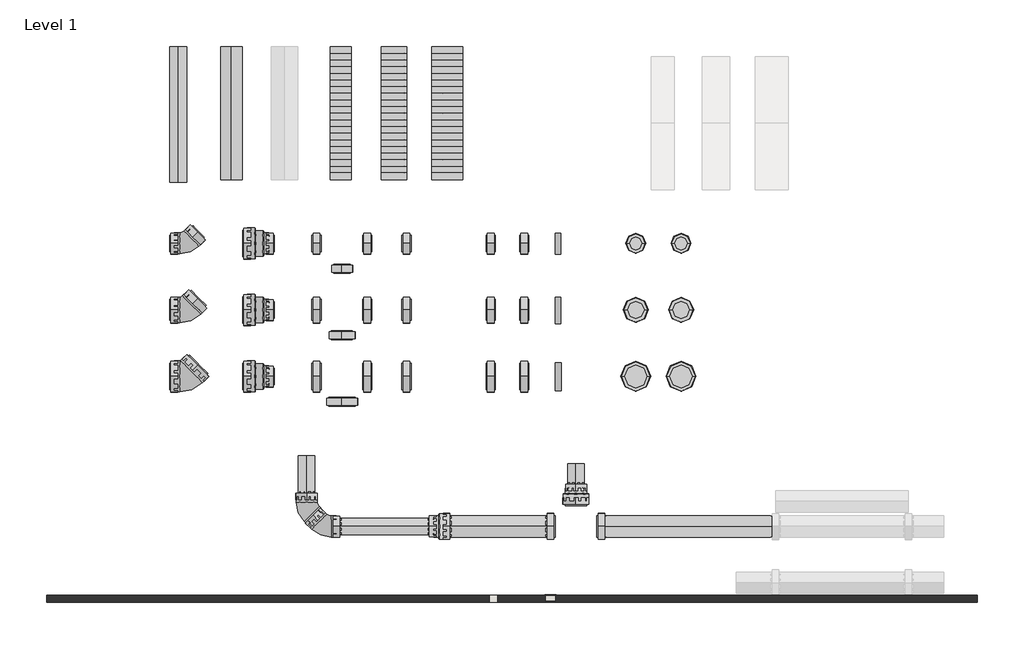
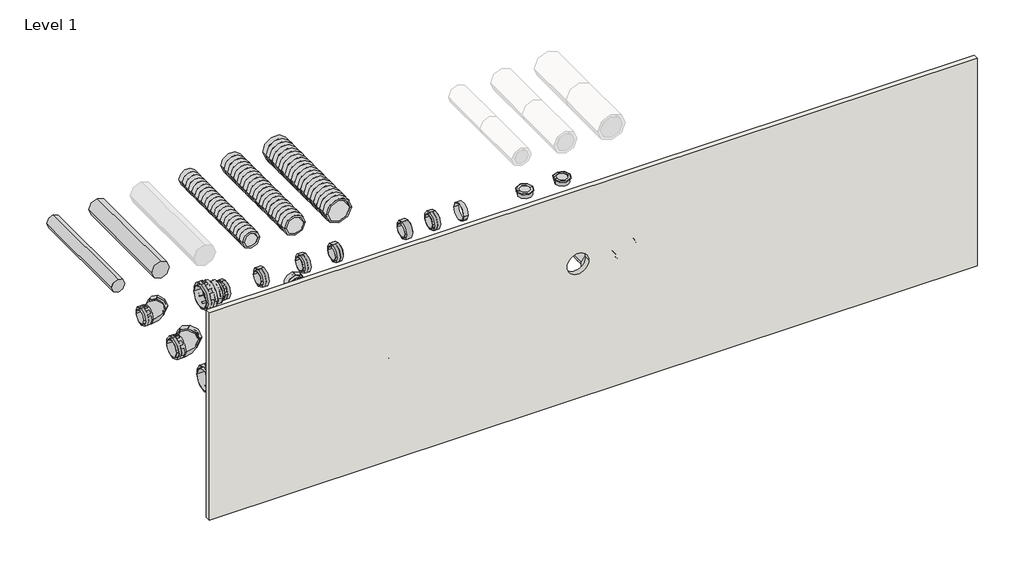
# One storey, part 1 of 2: 62 duct fittings, 7 duct segments, 1 wall.
"""IFC4 building model written with IfcOpenShell, lengths in millimetres."""

from ifc_helpers import new_model, si_unit, point, frame, frame_2d, origin, place, context, project, spatial, polyline, circle_curve, trimmed, segment, composite_curve, outline, extrude, transform, mapped, element, save
from ifc_brep_helpers import plane_surface, revolved_surface, advanced_brep
from components import duct_fitting_1b19f706, duct_fitting_def6fac4, duct_fitting_39894b4e, duct_fitting_a0ea5269, duct_fitting_e1a536a2, duct_fitting_b6d4955a, duct_fitting_a8d4e932, duct_fitting_c02a2270, duct_fitting_72554cf0, duct_fitting_98ac1955, duct_fitting_890f7c86, duct_fitting_05c502d2, duct_fitting_17f027be, duct_fitting_16796d55, duct_fitting_125_81f458a2, duct_fitting_160_bce058bc, duct_fitting_200_79083b61

model = new_model("IFC4")

# Units and contexts
model_context = context("Model", 3, world=origin())
ifc_project = project(units=[si_unit("LENGTHUNIT", "METRE", prefix="MILLI")], contexts=[model_context])

# Site, building, storey
site = spatial("IfcSite", under=ifc_project)
building = spatial("IfcBuilding", under=site)
storey = spatial("IfcBuildingStorey", under=building, Name="Level 1", Elevation=0.0)

# Duct fittings
placement = place(None, origin())
duct_fitting_shape = duct_fitting_1b19f706(model_context)
element("IfcDuctFitting", 1, ObjectType="HEATPEX - ARIA ADURO - Łącznik z uszczelką : HEATPEX - ARIA ADURO - Łącznik z uszczelką", at=placement, inside=storey, context=model_context, shape_type="MappedRepresentation", body=[
    mapped(duct_fitting_shape, transform((-2295.4264715, 3207.3868692, 0.0), x_axis=(1.0, 0.0, 0.0), y_axis=(0.0, 1.0, 0.0), z_axis=(0.0, 0.0, 1.0))),
])
element("IfcDuctFitting", 2, ObjectType="HEATPEX - ARIA ADURO - Łącznik z uszczelką : HEATPEX - ARIA ADURO - Łącznik z uszczelką", at=placement, inside=storey, context=model_context, shape_type="MappedRepresentation", body=[
    mapped(duct_fitting_shape, transform((-1662.2842854, 3207.3868692, 0.0), x_axis=(1.0, 0.0, 0.0), y_axis=(0.0, 1.0, 0.0), z_axis=(0.0, 0.0, 1.0))),
])
element("IfcDuctFitting", 3, ObjectType="HEATPEX - ARIA ADURO - Łącznik z uszczelką : HEATPEX - ARIA ADURO - Łącznik z uszczelką", at=placement, inside=storey, context=model_context, shape_type="MappedRepresentation", body=[
    mapped(duct_fitting_shape, transform((-1410.2842854, 3207.3868692, 0.0), x_axis=(1.0, 0.0, 0.0), y_axis=(0.0, 1.0, 0.0), z_axis=(0.0, 0.0, 1.0))),
])
element("IfcDuctFitting", 4, ObjectType="HEATPEX - ARIA ADURO - Łącznik z uszczelką : HEATPEX - ARIA ADURO - Łącznik z uszczelką", at=placement, inside=storey, context=model_context, shape_type="MappedRepresentation", body=[
    mapped(duct_fitting_shape, transform((-4042.4390569, 3207.3868692, 0.0), x_axis=(1.0, 0.0, 0.0), y_axis=(0.0, 1.0, 0.0), z_axis=(0.0, 0.0, 1.0))),
])
element("IfcDuctFitting", 5, ObjectType="HEATPEX - ARIA ADURO - Łącznik z uszczelką : HEATPEX - ARIA ADURO - Łącznik z uszczelką", at=placement, inside=storey, context=model_context, shape_type="MappedRepresentation", body=[
    mapped(duct_fitting_shape, transform((-3883.6781262, 3273.1477999, 0.0), x_axis=(0.7071067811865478, 0.7071067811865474, 0.0), y_axis=(-0.7071067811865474, 0.7071067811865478, 0.0), z_axis=(0.0, 0.0, 1.0))),
])
element("IfcDuctFitting", 6, ObjectType="HEATPEX - ARIA ADURO - Łącznik z uszczelką : HEATPEX - ARIA ADURO - Łącznik z uszczelką", at=placement, inside=storey, context=model_context, shape_type="MappedRepresentation", body=[
    mapped(duct_fitting_shape, transform((-2980.4039592, 1144.4602039, 557.2), x_axis=(0.7071067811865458, -0.7071067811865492, 0.0), y_axis=(0.70710677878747, 0.7071067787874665, -8.237487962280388e-05), z_axis=(5.824783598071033e-05, 5.824783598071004e-05, 0.9999999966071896))),
])
element("IfcDuctFitting", 7, ObjectType="HEATPEX - ARIA ADURO - Łącznik z uszczelką : HEATPEX - ARIA ADURO - Łącznik z uszczelką", at=placement, inside=storey, context=model_context, shape_type="MappedRepresentation", body=[
    mapped(duct_fitting_shape, transform((-2821.6430287, 1078.6992731, 557.194583), x_axis=(0.9999999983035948, -1.696408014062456e-09, -5.8247835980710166e-05), y_axis=(-1.6964024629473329e-09, 0.9999999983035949, -5.82478359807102e-05), z_axis=(5.824783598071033e-05, 5.824783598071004e-05, 0.9999999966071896))),
])
element("IfcDuctFitting", 8, ObjectType="HEATPEX - ARIA ADURO - Łącznik z uszczelką : HEATPEX - ARIA ADURO - Łącznik z uszczelką", at=placement, inside=storey, context=model_context, shape_type="MappedRepresentation", body=[
    mapped(duct_fitting_shape, transform((-3046.16489, 1303.2211344, 557.194583), x_axis=(1.6964035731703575e-09, -0.9999999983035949, 5.824783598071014e-05), y_axis=(0.999999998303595, -1.6964068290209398e-09, -5.8247835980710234e-05), z_axis=(5.824783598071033e-05, 5.8247835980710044e-05, 0.9999999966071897))),
])
element("IfcDuctFitting", 9, ObjectType="HEATPEX - ARIA ADURO - Łącznik z uszczelką : HEATPEX - ARIA ADURO - Łącznik z uszczelką", at=placement, inside=storey, context=model_context, shape_type="MappedRepresentation", body=[
    mapped(duct_fitting_shape, transform((-2590.228815, 3207.3868692, 0.0), x_axis=(1.0, 0.0, 0.0), y_axis=(0.0, 1.0, 0.0), z_axis=(0.0, 0.0, 1.0))),
])
element("IfcDuctFitting", 10, ObjectType="HEATPEX - ARIA ADURO - Łącznik z uszczelką : HEATPEX - ARIA ADURO - Łącznik z uszczelką", at=placement, inside=storey, context=model_context, shape_type="MappedRepresentation", body=[
    mapped(duct_fitting_shape, transform((-2972.228815, 3207.3868692, 0.0), x_axis=(1.0, 0.0, 0.0), y_axis=(0.0, 1.0, 0.0), z_axis=(0.0, 0.0, 1.0))),
])
element("IfcDuctFitting", 11, ObjectType="HEATPEX - ARIA ADURO - Łącznik z uszczelką : HEATPEX - ARIA ADURO - Łącznik z uszczelką", at=placement, inside=storey, context=model_context, shape_type="MappedRepresentation", body=[
    mapped(duct_fitting_shape, transform((-2781.228815, 3016.3868692, 0.0), x_axis=(0.0, 1.0, 0.0), y_axis=(-1.0, 0.0, 0.0), z_axis=(0.0, 0.0, 1.0))),
])
element("IfcDuctFitting", 12, ObjectType="HEATPEX - ARIA ADURO - Łącznik z uszczelką : HEATPEX - ARIA ADURO - Łącznik z uszczelką", at=placement, inside=storey, context=model_context, shape_type="MappedRepresentation", body=[
    mapped(duct_fitting_shape, transform((-3324.2481419, 2207.3868692, 0.0), x_axis=(1.0, 0.0, 0.0), y_axis=(0.0, 1.0, 0.0), z_axis=(0.0, 0.0, 1.0))),
])
element("IfcDuctFitting", 13, ObjectType="HEATPEX - ARIA ADURO - Łącznik z uszczelką : HEATPEX - ARIA ADURO - Łącznik z uszczelką", at=placement, inside=storey, context=model_context, shape_type="MappedRepresentation", body=[
    mapped(duct_fitting_shape, transform((-3324.2481419, 2707.3868692, 0.0), x_axis=(1.0, 0.0, 0.0), y_axis=(0.0, 1.0, 0.0), z_axis=(0.0, 0.0, 1.0))),
])
element("IfcDuctFitting", 14, ObjectType="HEATPEX - ARIA ADURO - Łącznik z uszczelką : HEATPEX - ARIA ADURO - Łącznik z uszczelką", at=placement, inside=storey, context=model_context, shape_type="MappedRepresentation", body=[
    mapped(duct_fitting_shape, transform((-3324.2481419, 3207.3868692, 0.0), x_axis=(1.0, 0.0, 0.0), y_axis=(0.0, 1.0, 0.0), z_axis=(0.0, 0.0, 1.0))),
])
element("IfcDuctFitting", 15, ObjectType="HEATPEX - ARIA ADURO - Łącznik z uszczelką : HEATPEX - ARIA ADURO - Łącznik z uszczelką", at=placement, inside=storey, context=model_context, shape_type="MappedRepresentation", body=[
    mapped(duct_fitting_shape, transform((-1021.228815, 1372.6992731, 557.1945247), x_axis=(0.0, 1.0, 0.0), y_axis=(-1.0, 0.0, 0.0), z_axis=(0.0, 0.0, 1.0))),
])
element("IfcDuctFitting", 16, ObjectType="HEATPEX - ARIA ADURO - Łącznik z uszczelką : HEATPEX - ARIA ADURO - Łącznik z uszczelką", at=placement, inside=storey, context=model_context, shape_type="MappedRepresentation", body=[
    mapped(duct_fitting_shape, transform((-2097.728815, 1078.6992731, 557.1945247), x_axis=(-1.0, 0.0, 0.0), y_axis=(0.0, -1.0, 0.0), z_axis=(0.0, 0.0, 1.0))),
])
duct_fitting_2_shape = duct_fitting_def6fac4(model_context)
element("IfcDuctFitting", 17, ObjectType="HEATPEX - ARIA ADURO - Kolano 45 : HEATPEX - ARIA ADURO - Kolano 45", at=placement, inside=storey, context=model_context, shape_type="MappedRepresentation", body=[
    mapped(duct_fitting_2_shape, transform((-3949.4390569, 2207.3868692, 0.0), x_axis=(1.0, 0.0, 0.0), y_axis=(0.0, 1.0, 0.0), z_axis=(0.0, 0.0, 1.0))),
])
duct_fitting_3_shape = duct_fitting_39894b4e(model_context)
element("IfcDuctFitting", 18, ObjectType="HEATPEX - ARIA ADURO - Redukcja : HEATPEX - ARIA ADURO - Redukcja", at=placement, inside=storey, context=model_context, shape_type="MappedRepresentation", body=[
    mapped(duct_fitting_3_shape, transform((-3408.7481419, 2207.3868692, 0.0), x_axis=(1.0, 0.0, 0.0), y_axis=(0.0, 1.0, 0.0), z_axis=(0.0, 0.0, 1.0))),
])
element("IfcDuctFitting", 19, ObjectType="HEATPEX - ARIA ADURO - Redukcja : HEATPEX - ARIA ADURO - Redukcja", at=placement, inside=storey, context=model_context, shape_type="MappedRepresentation", body=[
    mapped(duct_fitting_3_shape, transform((-3408.7481419, 2707.3868692, 0.0), x_axis=(1.0, 0.0, 0.0), y_axis=(0.0, 1.0, 0.0), z_axis=(0.0, 0.0, 1.0))),
])
element("IfcDuctFitting", 20, ObjectType="HEATPEX - ARIA ADURO - Redukcja : HEATPEX - ARIA ADURO - Redukcja", at=placement, inside=storey, context=model_context, shape_type="MappedRepresentation", body=[
    mapped(duct_fitting_3_shape, transform((-3408.7481419, 3207.3868692, 0.0), x_axis=(1.0, 0.0, 0.0), y_axis=(0.0, 1.0, 0.0), z_axis=(0.0, 0.0, 1.0))),
])
duct_fitting_4_shape = duct_fitting_a0ea5269(model_context)
element("IfcDuctFitting", 21, ObjectType="HEATPEX - ARIA ADURO - Rura 1m : HEATPEX - ARIA ADURO - Rura 1m", at=placement, inside=storey, context=model_context, shape_type="MappedRepresentation", body=[
    mapped(duct_fitting_4_shape, transform((-2788.7435132, 3687.7548725, 0.0), x_axis=(0.0, 1.0, 0.0), y_axis=(-1.0, 0.0, 0.0), z_axis=(0.0, 0.0, 1.0))),
])
duct_fitting_5_shape = duct_fitting_e1a536a2(model_context)
element("IfcDuctFitting", 22, ObjectType="HEATPEX - ARIA ADURO - Rura 1m : HEATPEX - ARIA ADURO - Rura 1m", at=placement, inside=storey, context=model_context, shape_type="MappedRepresentation", body=[
    mapped(duct_fitting_5_shape, transform((-2388.7435132, 3687.7548725, 0.0), x_axis=(0.0, 1.0, 0.0), y_axis=(-1.0, 0.0, 0.0), z_axis=(0.0, 0.0, 1.0))),
])
duct_fitting_6_shape = duct_fitting_b6d4955a(model_context)
element("IfcDuctFitting", 23, ObjectType="HEATPEX - ARIA ADURO - Rura 1m : HEATPEX - ARIA ADURO - Rura 1m", at=placement, inside=storey, context=model_context, shape_type="MappedRepresentation", body=[
    mapped(duct_fitting_6_shape, transform((-1988.7435132, 3687.7548725, 0.0), x_axis=(0.0, 1.0, 0.0), y_axis=(-1.0, 0.0, 0.0), z_axis=(0.0, 0.0, 1.0))),
])
duct_fitting_7_shape = duct_fitting_a8d4e932(model_context)
element("IfcDuctFitting", 24, ObjectType="HEATPEX - ARIA ADURO - Kolano 45 : HEATPEX - ARIA ADURO - Kolano 45", at=placement, inside=storey, context=model_context, shape_type="MappedRepresentation", body=[
    mapped(duct_fitting_7_shape, transform((-3949.4390569, 3207.3868692, 0.0), x_axis=(1.0, 0.0, 0.0), y_axis=(0.0, 1.0, 0.0), z_axis=(0.0, 0.0, 1.0))),
])
element("IfcDuctFitting", 25, ObjectType="HEATPEX - ARIA ADURO - Kolano 45 : HEATPEX - ARIA ADURO - Kolano 45", at=placement, inside=storey, context=model_context, shape_type="MappedRepresentation", body=[
    mapped(duct_fitting_7_shape, transform((-2914.6430286, 1078.6992733, 557.2), x_axis=(0.7071067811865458, -0.7071067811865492, 0.0), y_axis=(0.70710677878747, 0.7071067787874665, -8.237487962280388e-05), z_axis=(5.824783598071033e-05, 5.824783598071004e-05, 0.9999999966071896))),
])
duct_fitting_8_shape = duct_fitting_c02a2270(model_context)
element("IfcDuctFitting", 26, ObjectType="HEATPEX - ARIA ADURO - Kolano 45 : HEATPEX - ARIA ADURO - Kolano 45", at=placement, inside=storey, context=model_context, shape_type="MappedRepresentation", body=[
    mapped(duct_fitting_8_shape, transform((-3949.4390569, 2707.3868692, 0.0), x_axis=(1.0, 0.0, 0.0), y_axis=(0.0, 1.0, 0.0), z_axis=(0.0, 0.0, 1.0))),
])
element("IfcDuctFitting", 27, ObjectType="HEATPEX - ARIA ADURO - Kolano 45 : HEATPEX - ARIA ADURO - Kolano 45", at=placement, inside=storey, context=model_context, shape_type="MappedRepresentation", body=[
    mapped(duct_fitting_7_shape, transform((-3046.1648899, 1210.2211346, 557.2), x_axis=(1.6964035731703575e-09, -0.9999999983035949, 5.824783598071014e-05), y_axis=(0.999999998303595, -1.6964068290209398e-09, -5.8247835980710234e-05), z_axis=(5.824783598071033e-05, 5.8247835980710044e-05, 0.9999999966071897))),
])
duct_fitting_9_shape = duct_fitting_72554cf0(model_context)
element("IfcDuctFitting", 28, ObjectType="HEATPEX - ARIA ADURO - Redukcja : HEATPEX - ARIA ADURO - Redukcja", at=placement, inside=storey, context=model_context, shape_type="MappedRepresentation", body=[
    mapped(duct_fitting_9_shape, transform((-1021.228815, 1288.1992731, 557.1945247), x_axis=(0.0, 1.0, 0.0), y_axis=(-1.0, 0.0, 0.0), z_axis=(0.0, 0.0, 1.0))),
])
element("IfcDuctFitting", 29, ObjectType="HEATPEX - ARIA ADURO - Redukcja : HEATPEX - ARIA ADURO - Redukcja", at=placement, inside=storey, context=model_context, shape_type="MappedRepresentation", body=[
    mapped(duct_fitting_9_shape, transform((-2013.228815, 1078.6992731, 557.1945247), x_axis=(-1.0, 0.0, 0.0), y_axis=(0.0, -1.0, 0.0), z_axis=(0.0, 0.0, 1.0))),
])
duct_fitting_10_shape = duct_fitting_98ac1955(model_context)
element("IfcDuctFitting", 30, ObjectType="HEATPEX - ARIA ADURO - Adapter króćca do rekuperatora : 150/160", at=placement, inside=storey, context=model_context, shape_type="MappedRepresentation", body=[
    mapped(duct_fitting_10_shape, transform((-1155.2472103, 3204.2062759, 0.0), x_axis=(1.0, 0.0, 0.0), y_axis=(0.0, 1.0, 0.0), z_axis=(0.0, 0.0, 1.0))),
])
duct_fitting_11_shape = duct_fitting_890f7c86(model_context)
element("IfcDuctFitting", 31, ObjectType="HEATPEX - ARIA ADURO - Adapter króćca do rekuperatora : 180/200", at=placement, inside=storey, context=model_context, shape_type="MappedRepresentation", body=[
    mapped(duct_fitting_11_shape, transform((-1155.2472103, 2704.2062759, 0.0), x_axis=(1.0, 0.0, 0.0), y_axis=(0.0, 1.0, 0.0), z_axis=(0.0, 0.0, 1.0))),
])
duct_fitting_12_shape = duct_fitting_05c502d2(model_context)
element("IfcDuctFitting", 32, ObjectType="HEATPEX - ARIA ADURO - Łącznik z uszczelką : HEATPEX - ARIA ADURO - Łącznik z uszczelką", at=placement, inside=storey, context=model_context, shape_type="MappedRepresentation", body=[
    mapped(duct_fitting_12_shape, transform((-2295.4264715, 2707.3868692, 0.0), x_axis=(1.0, 0.0, 0.0), y_axis=(0.0, 1.0, 0.0), z_axis=(0.0, 0.0, 1.0))),
])
element("IfcDuctFitting", 33, ObjectType="HEATPEX - ARIA ADURO - Łącznik z uszczelką : HEATPEX - ARIA ADURO - Łącznik z uszczelką", at=placement, inside=storey, context=model_context, shape_type="MappedRepresentation", body=[
    mapped(duct_fitting_12_shape, transform((-1662.2842854, 2707.3868692, 0.0), x_axis=(1.0, 0.0, 0.0), y_axis=(0.0, 1.0, 0.0), z_axis=(0.0, 0.0, 1.0))),
])
element("IfcDuctFitting", 34, ObjectType="HEATPEX - ARIA ADURO - Łącznik z uszczelką : HEATPEX - ARIA ADURO - Łącznik z uszczelką", at=placement, inside=storey, context=model_context, shape_type="MappedRepresentation", body=[
    mapped(duct_fitting_12_shape, transform((-1410.2842854, 2707.3868692, 0.0), x_axis=(1.0, 0.0, 0.0), y_axis=(0.0, 1.0, 0.0), z_axis=(0.0, 0.0, 1.0))),
])
element("IfcDuctFitting", 35, ObjectType="HEATPEX - ARIA ADURO - Łącznik z uszczelką : HEATPEX - ARIA ADURO - Łącznik z uszczelką", at=placement, inside=storey, context=model_context, shape_type="MappedRepresentation", body=[
    mapped(duct_fitting_12_shape, transform((-4042.4390569, 2707.3868692, 0.0), x_axis=(1.0, 0.0, 0.0), y_axis=(0.0, 1.0, 0.0), z_axis=(0.0, 0.0, 1.0))),
])
element("IfcDuctFitting", 36, ObjectType="HEATPEX - ARIA ADURO - Łącznik z uszczelką : HEATPEX - ARIA ADURO - Łącznik z uszczelką", at=placement, inside=storey, context=model_context, shape_type="MappedRepresentation", body=[
    mapped(duct_fitting_12_shape, transform((-3883.6781262, 2773.1477999, 0.0), x_axis=(0.7071067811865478, 0.7071067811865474, 0.0), y_axis=(-0.7071067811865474, 0.7071067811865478, 0.0), z_axis=(0.0, 0.0, 1.0))),
])
element("IfcDuctFitting", 37, ObjectType="HEATPEX - ARIA ADURO - Łącznik z uszczelką : HEATPEX - ARIA ADURO - Łącznik z uszczelką", at=placement, inside=storey, context=model_context, shape_type="MappedRepresentation", body=[
    mapped(duct_fitting_12_shape, transform((-2590.228815, 2707.3868692, 0.0), x_axis=(1.0, 0.0, 0.0), y_axis=(0.0, 1.0, 0.0), z_axis=(0.0, 0.0, 1.0))),
])
element("IfcDuctFitting", 38, ObjectType="HEATPEX - ARIA ADURO - Łącznik z uszczelką : HEATPEX - ARIA ADURO - Łącznik z uszczelką", at=placement, inside=storey, context=model_context, shape_type="MappedRepresentation", body=[
    mapped(duct_fitting_12_shape, transform((-2972.228815, 2707.3868692, 0.0), x_axis=(1.0, 0.0, 0.0), y_axis=(0.0, 1.0, 0.0), z_axis=(0.0, 0.0, 1.0))),
])
element("IfcDuctFitting", 39, ObjectType="HEATPEX - ARIA ADURO - Łącznik z uszczelką : HEATPEX - ARIA ADURO - Łącznik z uszczelką", at=placement, inside=storey, context=model_context, shape_type="MappedRepresentation", body=[
    mapped(duct_fitting_12_shape, transform((-2781.228815, 2516.3868692, 0.0), x_axis=(0.0, 1.0, 0.0), y_axis=(-1.0, 0.0, 0.0), z_axis=(0.0, 0.0, 1.0))),
])
element("IfcDuctFitting", 40, ObjectType="HEATPEX - ARIA ADURO - Łącznik z uszczelką : HEATPEX - ARIA ADURO - Łącznik z uszczelką", at=placement, inside=storey, context=model_context, shape_type="MappedRepresentation", body=[
    mapped(duct_fitting_12_shape, transform((-1212.228815, 1078.6992731, 557.1945247), x_axis=(-1.0, 0.0, 0.0), y_axis=(0.0, -1.0, 0.0), z_axis=(0.0, 0.0, 1.0))),
])
element("IfcDuctFitting", 41, ObjectType="HEATPEX - ARIA ADURO - Łącznik z uszczelką : HEATPEX - ARIA ADURO - Łącznik z uszczelką", at=placement, inside=storey, context=model_context, shape_type="MappedRepresentation", body=[
    mapped(duct_fitting_12_shape, transform((-830.228815, 1078.6992731, 557.1945247), x_axis=(-1.0, 0.0, 0.0), y_axis=(0.0, -1.0, 0.0), z_axis=(0.0, 0.0, 1.0))),
])
element("IfcDuctFitting", 42, ObjectType="HEATPEX - ARIA ADURO - Łącznik z uszczelką : HEATPEX - ARIA ADURO - Łącznik z uszczelką", at=placement, inside=storey, context=model_context, shape_type="MappedRepresentation", body=[
    mapped(duct_fitting_12_shape, transform((-1021.228815, 1269.6992731, 557.1945247), x_axis=(0.0, -1.0, 0.0), y_axis=(1.0, 0.0, 0.0), z_axis=(0.0, 0.0, 1.0))),
])
element("IfcDuctFitting", 43, ObjectType="HEATPEX - ARIA ADURO - Łącznik z uszczelką : HEATPEX - ARIA ADURO - Łącznik z uszczelką", at=placement, inside=storey, context=model_context, shape_type="MappedRepresentation", body=[
    mapped(duct_fitting_12_shape, transform((-1994.728815, 1078.6992731, 557.1945247), x_axis=(-1.0, 0.0, 0.0), y_axis=(0.0, -1.0, 0.0), z_axis=(0.0, 0.0, 1.0))),
])
duct_fitting_13_shape = duct_fitting_17f027be(model_context)
element("IfcDuctFitting", 44, ObjectType="HEATPEX - ARIA ADURO - Łącznik z uszczelką : HEATPEX - ARIA ADURO - Łącznik z uszczelką", at=placement, inside=storey, context=model_context, shape_type="MappedRepresentation", body=[
    mapped(duct_fitting_13_shape, transform((-2295.4264715, 2207.3868692, 0.0), x_axis=(1.0, 0.0, 0.0), y_axis=(0.0, 1.0, 0.0), z_axis=(0.0, 0.0, 1.0))),
])
element("IfcDuctFitting", 45, ObjectType="HEATPEX - ARIA ADURO - Łącznik z uszczelką : HEATPEX - ARIA ADURO - Łącznik z uszczelką", at=placement, inside=storey, context=model_context, shape_type="MappedRepresentation", body=[
    mapped(duct_fitting_13_shape, transform((-1662.2842854, 2207.3868692, 0.0), x_axis=(1.0, 0.0, 0.0), y_axis=(0.0, 1.0, 0.0), z_axis=(0.0, 0.0, 1.0))),
])
element("IfcDuctFitting", 46, ObjectType="HEATPEX - ARIA ADURO - Łącznik z uszczelką : HEATPEX - ARIA ADURO - Łącznik z uszczelką", at=placement, inside=storey, context=model_context, shape_type="MappedRepresentation", body=[
    mapped(duct_fitting_13_shape, transform((-1410.2842854, 2207.3868692, 0.0), x_axis=(1.0, 0.0, 0.0), y_axis=(0.0, 1.0, 0.0), z_axis=(0.0, 0.0, 1.0))),
])
element("IfcDuctFitting", 47, ObjectType="HEATPEX - ARIA ADURO - Łącznik z uszczelką : HEATPEX - ARIA ADURO - Łącznik z uszczelką", at=placement, inside=storey, context=model_context, shape_type="MappedRepresentation", body=[
    mapped(duct_fitting_13_shape, transform((-4042.4390569, 2207.3868692, 0.0), x_axis=(1.0, 0.0, 0.0), y_axis=(0.0, 1.0, 0.0), z_axis=(0.0, 0.0, 1.0))),
])
element("IfcDuctFitting", 48, ObjectType="HEATPEX - ARIA ADURO - Łącznik z uszczelką : HEATPEX - ARIA ADURO - Łącznik z uszczelką", at=placement, inside=storey, context=model_context, shape_type="MappedRepresentation", body=[
    mapped(duct_fitting_13_shape, transform((-3883.6781262, 2273.1477999, 0.0), x_axis=(0.7071067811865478, 0.7071067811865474, 0.0), y_axis=(-0.7071067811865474, 0.7071067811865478, 0.0), z_axis=(0.0, 0.0, 1.0))),
])
element("IfcDuctFitting", 49, ObjectType="HEATPEX - ARIA ADURO - Łącznik z uszczelką : HEATPEX - ARIA ADURO - Łącznik z uszczelką", at=placement, inside=storey, context=model_context, shape_type="MappedRepresentation", body=[
    mapped(duct_fitting_13_shape, transform((-2590.228815, 2207.3868692, 0.0), x_axis=(1.0, 0.0, 0.0), y_axis=(0.0, 1.0, 0.0), z_axis=(0.0, 0.0, 1.0))),
])
element("IfcDuctFitting", 50, ObjectType="HEATPEX - ARIA ADURO - Łącznik z uszczelką : HEATPEX - ARIA ADURO - Łącznik z uszczelką", at=placement, inside=storey, context=model_context, shape_type="MappedRepresentation", body=[
    mapped(duct_fitting_13_shape, transform((-2972.228815, 2207.3868692, 0.0), x_axis=(1.0, 0.0, 0.0), y_axis=(0.0, 1.0, 0.0), z_axis=(0.0, 0.0, 1.0))),
])
element("IfcDuctFitting", 51, ObjectType="HEATPEX - ARIA ADURO - Łącznik z uszczelką : HEATPEX - ARIA ADURO - Łącznik z uszczelką", at=placement, inside=storey, context=model_context, shape_type="MappedRepresentation", body=[
    mapped(duct_fitting_13_shape, transform((-2781.228815, 2016.3868692, 0.0), x_axis=(0.0, 1.0, 0.0), y_axis=(-1.0, 0.0, 0.0), z_axis=(0.0, 0.0, 1.0))),
])
element("IfcDuctFitting", 52, ObjectType="HEATPEX - ARIA ADURO - Łącznik z uszczelką : HEATPEX - ARIA ADURO - Łącznik z uszczelką", at=placement, inside=storey, context=model_context, shape_type="MappedRepresentation", body=[
    mapped(duct_fitting_13_shape, transform((-3493.2481419, 2207.3868692, 0.0), x_axis=(1.0, 0.0, 0.0), y_axis=(0.0, 1.0, 0.0), z_axis=(0.0, 0.0, 1.0))),
])
element("IfcDuctFitting", 53, ObjectType="HEATPEX - ARIA ADURO - Łącznik z uszczelką : HEATPEX - ARIA ADURO - Łącznik z uszczelką", at=placement, inside=storey, context=model_context, shape_type="MappedRepresentation", body=[
    mapped(duct_fitting_13_shape, transform((-3493.2481419, 2707.3868692, 0.0), x_axis=(1.0, 0.0, 0.0), y_axis=(0.0, 1.0, 0.0), z_axis=(0.0, 0.0, 1.0))),
])
element("IfcDuctFitting", 54, ObjectType="HEATPEX - ARIA ADURO - Łącznik z uszczelką : HEATPEX - ARIA ADURO - Łącznik z uszczelką", at=placement, inside=storey, context=model_context, shape_type="MappedRepresentation", body=[
    mapped(duct_fitting_13_shape, transform((-3493.2481419, 3207.3868692, 0.0), x_axis=(1.0, 0.0, 0.0), y_axis=(0.0, 1.0, 0.0), z_axis=(0.0, 0.0, 1.0))),
])
duct_fitting_14_shape = duct_fitting_16796d55(model_context)
element("IfcDuctFitting", 55, ObjectType="HEATPEX - ARIA ADURO - Adapter króćca do rekuperatora : 210/160", at=placement, inside=storey, context=model_context, shape_type="MappedRepresentation", body=[
    mapped(duct_fitting_14_shape, transform((-1155.2472103, 2204.2062759, 0.0), x_axis=(1.0, 0.0, 0.0), y_axis=(0.0, 1.0, 0.0), z_axis=(0.0, 0.0, 1.0))),
])
duct_fitting_125_shape = duct_fitting_125_81f458a2(model_context)
element("IfcDuctFitting", 56, ObjectType="HEATPEX - ARIA ADURO - Czerpnia płaska : 125", at=placement, inside=storey, context=model_context, shape_type="MappedRepresentation", body=[
    mapped(duct_fitting_125_shape, transform((-571.3175221, 3207.3868692, 0.0), x_axis=(1.0, 0.0, 0.0), y_axis=(0.0, 1.0, 0.0), z_axis=(0.0, 0.0, 1.0))),
])
element("IfcDuctFitting", 57, ObjectType="HEATPEX - ARIA ADURO - Wyrzutnia płaska : 125", at=placement, inside=storey, context=model_context, shape_type="MappedRepresentation", body=[
    mapped(duct_fitting_125_shape, transform((-231.3175221, 3207.3868692, 0.0), x_axis=(1.0, 0.0, 0.0), y_axis=(0.0, 1.0, 0.0), z_axis=(0.0, 0.0, 1.0))),
])
duct_fitting_160_shape = duct_fitting_160_bce058bc(model_context)
element("IfcDuctFitting", 58, ObjectType="HEATPEX - ARIA ADURO - Czerpnia płaska : 160", at=placement, inside=storey, context=model_context, shape_type="MappedRepresentation", body=[
    mapped(duct_fitting_160_shape, transform((-571.3175221, 2707.3868692, 0.0), x_axis=(1.0, 0.0, 0.0), y_axis=(0.0, 1.0, 0.0), z_axis=(0.0, 0.0, 1.0))),
])
element("IfcDuctFitting", 59, ObjectType="HEATPEX - ARIA ADURO - Wyrzutnia płaska : 160", at=placement, inside=storey, context=model_context, shape_type="MappedRepresentation", body=[
    mapped(duct_fitting_160_shape, transform((-231.3175221, 2707.3868692, 0.0), x_axis=(1.0, 0.0, 0.0), y_axis=(0.0, 1.0, 0.0), z_axis=(0.0, 0.0, 1.0))),
])
duct_fitting_200_shape = duct_fitting_200_79083b61(model_context)
element("IfcDuctFitting", 60, ObjectType="HEATPEX - ARIA ADURO - Czerpnia płaska : 200", at=placement, inside=storey, context=model_context, shape_type="MappedRepresentation", body=[
    mapped(duct_fitting_200_shape, transform((-571.3175221, 2207.3868692, 0.0), x_axis=(1.0, 0.0, 0.0), y_axis=(0.0, 1.0, 0.0), z_axis=(0.0, 0.0, 1.0))),
])
element("IfcDuctFitting", 61, ObjectType="HEATPEX - ARIA ADURO - Czerpnia płaska : 200", at=placement, inside=storey, context=model_context, shape_type="MappedRepresentation", body=[
    mapped(duct_fitting_200_shape, transform((-1213.228815, 560.6644692, 1293.36539), x_axis=(-1.0, 0.0, 0.0), y_axis=(0.0, 0.0, 1.0), z_axis=(0.0, 1.0, 0.0))),
])
element("IfcDuctFitting", 62, ObjectType="HEATPEX - ARIA ADURO - Wyrzutnia płaska : 200", at=placement, inside=storey, context=model_context, shape_type="MappedRepresentation", body=[
    mapped(duct_fitting_200_shape, transform((-231.3175221, 2207.3868692, 0.0), x_axis=(1.0, 0.0, 0.0), y_axis=(0.0, 1.0, 0.0), z_axis=(0.0, 0.0, 1.0))),
])

# Duct segments
element("IfcDuctSegment", 63, ObjectType="HEATPEX - ARIA ADURO", at=placement, inside=storey, context=model_context, shape_type="SweptSolid", body=[
    extrude(outline(composite_curve([segment(trimmed(circle_curve(frame_2d((0.0, -4011.4433976)), 62.5), [point((0.0, -3948.9433976))], [point((62.5, -4011.4433976))], False, "CARTESIAN"), True, "CONTINUOUS"), segment(trimmed(circle_curve(frame_2d((0.0, -4011.4433976)), 62.5), [point((62.5, -4011.4433976))], [point((0.0, -4073.9433976))], False, "CARTESIAN"), True, "CONTINUOUS"), segment(trimmed(circle_curve(frame_2d((0.0, -4011.4433976)), 62.5), [point((0.0, -4073.9433976))], [point((-62.5, -4011.4433976))], False, "CARTESIAN"), True, "CONTINUOUS"), segment(trimmed(circle_curve(frame_2d((0.0, -4011.4433976)), 62.5), [point((-62.5, -4011.4433976))], [point((0.0, -3948.9433976))], False, "CARTESIAN"), True, "CONTINUOUS")], self_intersect=False)), frame((0.0, 3667.7548725, 0.0), z_axis=(0.0, 1.0, 0.0), x_axis=(0.0, 0.0, 1.0)), (0.0, 0.0, 1.0), 1020.0),
])
element("IfcDuctSegment", 64, ObjectType="HEATPEX - ARIA ADURO", at=placement, inside=storey, context=model_context, shape_type="SweptSolid", body=[
    extrude(outline(composite_curve([segment(trimmed(circle_curve(frame_2d((0.0, -3611.4433976)), 80.0), [point((0.0, -3531.4433976))], [point((80.0, -3611.4433976))], False, "CARTESIAN"), True, "CONTINUOUS"), segment(trimmed(circle_curve(frame_2d((0.0, -3611.4433976)), 80.0), [point((80.0, -3611.4433976))], [point((0.0, -3691.4433976))], False, "CARTESIAN"), True, "CONTINUOUS"), segment(trimmed(circle_curve(frame_2d((0.0, -3611.4433976)), 80.0), [point((0.0, -3691.4433976))], [point((-80.0, -3611.4433976))], False, "CARTESIAN"), True, "CONTINUOUS"), segment(trimmed(circle_curve(frame_2d((0.0, -3611.4433976)), 80.0), [point((-80.0, -3611.4433976))], [point((0.0, -3531.4433976))], False, "CARTESIAN"), True, "CONTINUOUS")], self_intersect=False)), frame((0.0, 3687.7548725, 0.0), z_axis=(0.0, 1.0, 0.0), x_axis=(0.0, 0.0, 1.0)), (0.0, 0.0, 1.0), 1000.0),
])
element("IfcDuctSegment", 65, ObjectType="HEATPEX - ARIA ADURO", at=placement, inside=storey, context=model_context, shape_type="SweptSolid", body=[
    extrude(outline(composite_curve([segment(trimmed(circle_curve(frame_2d((1078.6992731, 557.1945247)), 80.0), [point((1158.6992731, 557.1945247))], [point((1078.6992731, 477.1945247))], False, "CARTESIAN"), True, "CONTINUOUS"), segment(trimmed(circle_curve(frame_2d((1078.6992731, 557.1945247)), 80.0), [point((1078.6992731, 477.1945247))], [point((998.6992731, 557.1945247))], False, "CARTESIAN"), True, "CONTINUOUS"), segment(trimmed(circle_curve(frame_2d((1078.6992731, 557.1945247)), 80.0), [point((998.6992731, 557.1945247))], [point((1078.6992731, 637.1945247))], False, "CARTESIAN"), True, "CONTINUOUS"), segment(trimmed(circle_curve(frame_2d((1078.6992731, 557.1945247)), 80.0), [point((1078.6992731, 637.1945247))], [point((1158.6992731, 557.1945247))], False, "CARTESIAN"), True, "CONTINUOUS")], self_intersect=False)), frame((-1993.728815, 0.0, 0.0), z_axis=(1.0, 0.0, 0.0), x_axis=(0.0, 1.0, 0.0)), (0.0, 0.0, 1.0), 780.5),
])
element("IfcDuctSegment", 66, ObjectType="HEATPEX - ARIA ADURO", at=placement, inside=storey, context=model_context, shape_type="SweptSolid", body=[
    extrude(outline(composite_curve([segment(trimmed(circle_curve(frame_2d((0.0, 62.5)), 62.5), [point((0.0, 125.0))], [point((62.5, 62.5))], False, "CARTESIAN"), True, "CONTINUOUS"), segment(trimmed(circle_curve(frame_2d((0.0, 62.5)), 62.5), [point((62.5, 62.5))], [point((0.0, 0.0))], False, "CARTESIAN"), True, "CONTINUOUS"), segment(trimmed(circle_curve(frame_2d((0.0, 62.5)), 62.5), [point((0.0, 0.0))], [point((-62.5, 62.5))], False, "CARTESIAN"), True, "CONTINUOUS"), segment(trimmed(circle_curve(frame_2d((0.0, 62.5)), 62.5), [point((-62.5, 62.5))], [point((0.0, 125.0))], False, "CARTESIAN"), True, "CONTINUOUS")], self_intersect=False)), frame((-1083.728815, 1373.6992731, 557.1945247), z_axis=(0.0, 0.9999999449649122, 0.0003317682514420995), x_axis=(0.0, -0.0003317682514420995, 0.9999999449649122)), (0.0, 0.0, 1.0), 178.5857728),
])
element("IfcDuctSegment", 67, ObjectType="HEATPEX - ARIA ADURO", at=placement, inside=storey, context=model_context, shape_type="SweptSolid", body=[
    extrude(outline(composite_curve([segment(trimmed(circle_curve(frame_2d((1078.6992731, 557.1945247)), 80.0), [point((1158.6992731, 557.1945247))], [point((1078.6992731, 477.1945247))], False, "CARTESIAN"), True, "CONTINUOUS"), segment(trimmed(circle_curve(frame_2d((1078.6992731, 557.1945247)), 80.0), [point((1078.6992731, 477.1945247))], [point((998.6992731, 557.1945247))], False, "CARTESIAN"), True, "CONTINUOUS"), segment(trimmed(circle_curve(frame_2d((1078.6992731, 557.1945247)), 80.0), [point((998.6992731, 557.1945247))], [point((1078.6992731, 637.1945247))], False, "CARTESIAN"), True, "CONTINUOUS"), segment(trimmed(circle_curve(frame_2d((1078.6992731, 557.1945247)), 80.0), [point((1078.6992731, 637.1945247))], [point((1158.6992731, 557.1945247))], False, "CARTESIAN"), True, "CONTINUOUS")], self_intersect=False)), frame((-829.228815, 0.0, 0.0), z_axis=(1.0, 0.0, 0.0), x_axis=(0.0, 1.0, 0.0)), (0.0, 0.0, 1.0), 1307.0536847),
])
element("IfcDuctSegment", 68, ObjectType="HEATPEX - ARIA ADURO", at=placement, inside=storey, context=model_context, shape_type="SweptSolid", body=[
    extrude(outline(composite_curve([segment(trimmed(circle_curve(frame_2d((1078.6992731, 557.1945247)), 62.5), [point((1141.1992731, 557.1945247))], [point((1078.6992731, 494.6945247))], False, "CARTESIAN"), True, "CONTINUOUS"), segment(trimmed(circle_curve(frame_2d((1078.6992731, 557.1945247)), 62.5), [point((1078.6992731, 494.6945247))], [point((1016.1992731, 557.1945247))], False, "CARTESIAN"), True, "CONTINUOUS"), segment(trimmed(circle_curve(frame_2d((1078.6992731, 557.1945247)), 62.5), [point((1016.1992731, 557.1945247))], [point((1078.6992731, 619.6945247))], False, "CARTESIAN"), True, "CONTINUOUS"), segment(trimmed(circle_curve(frame_2d((1078.6992731, 557.1945247)), 62.5), [point((1078.6992731, 619.6945247))], [point((1141.1992731, 557.1945247))], False, "CARTESIAN"), True, "CONTINUOUS")], self_intersect=False)), frame((-2820.6430287, 0.0, 0.0), z_axis=(1.0, 0.0, 0.0), x_axis=(0.0, 1.0, 0.0)), (0.0, 0.0, 1.0), 721.9142137),
])
element("IfcDuctSegment", 69, ObjectType="HEATPEX - ARIA ADURO", at=placement, inside=storey, context=model_context, shape_type="SweptSolid", body=[
    extrude(outline(composite_curve([segment(trimmed(circle_curve(frame_2d((0.0, 62.5)), 62.5), [point((0.0, 125.0))], [point((62.5, 62.5))], False, "CARTESIAN"), True, "CONTINUOUS"), segment(trimmed(circle_curve(frame_2d((0.0, 62.5)), 62.5), [point((62.5, 62.5))], [point((0.0, 0.0))], False, "CARTESIAN"), True, "CONTINUOUS"), segment(trimmed(circle_curve(frame_2d((0.0, 62.5)), 62.5), [point((0.0, 0.0))], [point((-62.5, 62.5))], False, "CARTESIAN"), True, "CONTINUOUS"), segment(trimmed(circle_curve(frame_2d((0.0, 62.5)), 62.5), [point((-62.5, 62.5))], [point((0.0, 125.0))], False, "CARTESIAN"), True, "CONTINUOUS")], self_intersect=False)), frame((-3108.66489, 1304.2211344, 557.1945247), z_axis=(5.211189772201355e-10, 0.999999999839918, 1.7893126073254e-05), x_axis=(0.0, -1.7893126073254e-05, 0.999999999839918)), (0.0, 0.0, 1.0), 306.0000002),
])

# Wall
element("IfcWall", 70, ObjectType="Sample", at=placement, inside=storey, context=model_context, shape_type="AdvancedBrep", body=[
    advanced_brep(
    [(-5002.1661535, 510.6644692, 0.0), (1997.8338465, 510.6644692, 0.0), (1997.8338465, 510.6644692, 2000.0), (-5002.1661535, 510.6644692, 2000.0), (-1543.1661535, 510.6644692, 1294.7594509), (-1741.1661535, 510.6644692, 1294.7594509), (1997.8338465, 560.6644692, 0.0), (-5002.1661535, 560.6644692, 0.0), (-5002.1661535, 560.6644692, 2000.0), (1997.8338465, 560.6644692, 2000.0), (-1313.228815, 560.6644692, 1293.36539), (-1113.228815, 560.6644692, 1293.36539), (-1741.1661535, 560.6644692, 1294.7594509), (-1543.1661535, 560.6644692, 1294.7594509), (-1113.228815, 515.6644692, 1293.36539), (-1313.228815, 515.6644692, 1293.36539)],
    [
        (0, 1),
        (1, 2),
        (2, 3),
        (3, 0),
        (4, 5, circle_curve(frame((-1642.1661535, 510.6644692, 1294.7594509), z_axis=(0.0, 1.0, 0.0), x_axis=(-1.0, 0.0, 0.0)), 99.0)),
        (5, 4, circle_curve(frame((-1642.1661535, 510.6644692, 1294.7594509), z_axis=(0.0, 1.0, 0.0), x_axis=(-1.0, 0.0, 0.0)), 99.0)),
        (6, 7),
        (7, 8),
        (8, 9),
        (9, 6),
        (10, 11, circle_curve(frame((-1213.228815, 560.6644692, 1293.36539), z_axis=(0.0, -1.0, 0.0), x_axis=(-1.0, 0.0, 0.0)), 100.0)),
        (11, 10, circle_curve(frame((-1213.228815, 560.6644692, 1293.36539), z_axis=(0.0, -1.0, 0.0), x_axis=(-1.0, 0.0, 0.0)), 100.0)),
        (12, 13, circle_curve(frame((-1642.1661535, 560.6644692, 1294.7594509), z_axis=(0.0, -1.0, 0.0), x_axis=(-1.0, 0.0, 0.0)), 99.0)),
        (13, 12, circle_curve(frame((-1642.1661535, 560.6644692, 1294.7594509), z_axis=(0.0, -1.0, 0.0), x_axis=(-1.0, 0.0, 0.0)), 99.0)),
        (0, 7),
        (6, 1),
        (9, 2),
        (8, 3),
        (14, 15, circle_curve(frame((-1213.228815, 515.6644692, 1293.36539), z_axis=(0.0, 1.0, 0.0), x_axis=(-1.0, 0.0, 0.0)), 100.0)),
        (15, 14, circle_curve(frame((-1213.228815, 515.6644692, 1293.36539), z_axis=(0.0, 1.0, 0.0), x_axis=(-1.0, 0.0, 0.0)), 100.0)),
        (14, 11),
        (10, 15),
        (4, 13),
        (12, 5),
    ],
    [
        plane_surface(frame((-5002.1661535, 510.6644692, 0.0), z_axis=(0.0, -1.0, 0.0), x_axis=(1.0, 0.0, 0.0))),
        plane_surface(frame((-5002.1661535, 560.6644692, 0.0), z_axis=(0.0, 1.0, 0.0), x_axis=(-1.0, 0.0, 0.0))),
        plane_surface(frame((-5002.1661535, 510.6644692, 0.0), z_axis=(0.0, 0.0, -1.0), x_axis=(0.0, 1.0, 0.0))),
        plane_surface(frame((1997.8338465, 510.6644692, 0.0), z_axis=(1.0, 0.0, 0.0), x_axis=(0.0, 1.0, 0.0))),
        plane_surface(frame((1997.8338465, 510.6644692, 2000.0), z_axis=(0.0, 0.0, 1.0), x_axis=(0.0, 1.0, 0.0))),
        plane_surface(frame((-5002.1661535, 510.6644692, 2000.0), z_axis=(-1.0, 0.0, 0.0), x_axis=(0.0, 1.0, 0.0))),
        plane_surface(frame((-1213.228815, 515.6644692, 1293.36539), z_axis=(0.0, 1.0, 0.0), x_axis=(-1.0, 0.0, 0.0))),
        revolved_surface(polyline([(-1313.228815, 560.6644692, 1293.36539), (-1313.228815, 515.6644692, 1293.36539)]), (-1213.228815, 560.6644692, 1293.36539), (0.0, 1.0, 0.0)),
        revolved_surface(polyline([(-1741.1661535, 560.6644692, 1294.7594509), (-1741.1661535, 510.6644692, 1294.7594509)]), (-1642.1661535, 560.6644692, 1294.7594509), (0.0, 1.0, 0.0)),
    ],
    [
        (0, [[1, 2, 3, 4], [5, 6]]),
        (1, [[7, 8, 9, 10], [11, 12], [13, 14]]),
        (2, [[-1, 15, -7, 16]]),
        (3, [[-2, -16, -10, 17]]),
        (4, [[-3, -17, -9, 18]]),
        (5, [[-4, -18, -8, -15]]),
        (6, [[19, 20]]),
        (7, [[-19, 21, -11, 22]]),
        (7, [[-20, -22, -12, -21]]),
        (8, [[23, -13, 24, -5]]),
        (8, [[-23, -6, -24, -14]]),
    ],
),
])

save(model, "model.ifc")
